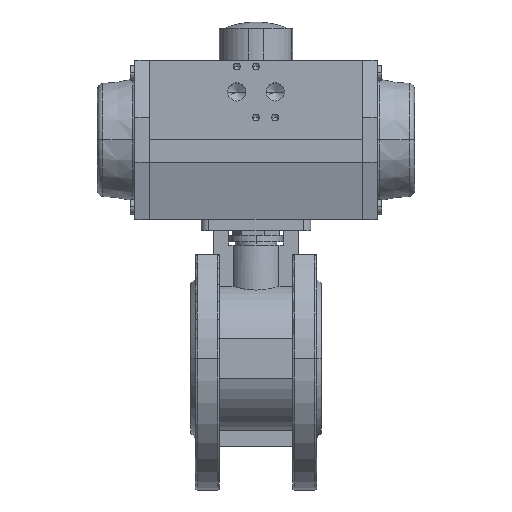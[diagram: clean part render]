
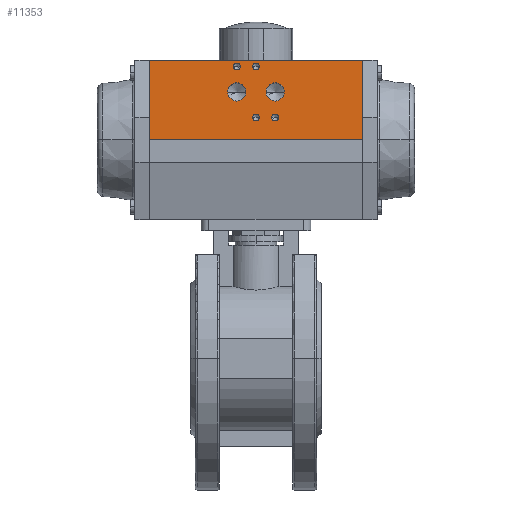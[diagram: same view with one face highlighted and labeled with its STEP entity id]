
A CAD part, top view. The second image highlights one B-rep face of the part: STEP entity #11353.
In plain terms, the highlighted planar face has unit normal (0, 0, 1) as drawn and (1, 0, 0) by its records, which use the part's own axes.
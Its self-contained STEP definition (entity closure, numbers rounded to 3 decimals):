
#951 = EDGE_LOOP ( 'NONE', ( #8239, #8247, #8246, #8233 ) ) ;
#953 = EDGE_LOOP ( 'NONE', ( #8217, #8227 ) ) ;
#955 = EDGE_LOOP ( 'NONE', ( #8221, #8243 ) ) ;
#957 = EDGE_LOOP ( 'NONE', ( #8210, #8219 ) ) ;
#959 = EDGE_LOOP ( 'NONE', ( #8234, #8244 ) ) ;
#966 = EDGE_LOOP ( 'NONE', ( #8241, #8238 ) ) ;
#968 = EDGE_LOOP ( 'NONE', ( #8204, #8216 ) ) ;
#1266 = VERTEX_POINT ( 'NONE', #1689 ) ;
#1267 = VERTEX_POINT ( 'NONE', #1690 ) ;
#1272 = VERTEX_POINT ( 'NONE', #1695 ) ;
#1273 = VERTEX_POINT ( 'NONE', #1696 ) ;
#1280 = VERTEX_POINT ( 'NONE', #1703 ) ;
#1281 = VERTEX_POINT ( 'NONE', #1704 ) ;
#1290 = VERTEX_POINT ( 'NONE', #1713 ) ;
#1291 = VERTEX_POINT ( 'NONE', #1714 ) ;
#1296 = VERTEX_POINT ( 'NONE', #1719 ) ;
#1297 = VERTEX_POINT ( 'NONE', #1720 ) ;
#1301 = VERTEX_POINT ( 'NONE', #1724 ) ;
#1304 = VERTEX_POINT ( 'NONE', #1727 ) ;
#1689 = CARTESIAN_POINT ( 'NONE',  ( 49.5, 30., 6.277 ) ) ;
#1690 = CARTESIAN_POINT ( 'NONE',  ( 49.5, 30., 17.722 ) ) ;
#1695 = CARTESIAN_POINT ( 'NONE',  ( 49.5, 30., -17.723 ) ) ;
#1696 = CARTESIAN_POINT ( 'NONE',  ( 49.5, 30., -6.277 ) ) ;
#1703 = CARTESIAN_POINT ( 'NONE',  ( 49.5, 46., -2.1 ) ) ;
#1704 = CARTESIAN_POINT ( 'NONE',  ( 49.5, 46., 2.1 ) ) ;
#1713 = CARTESIAN_POINT ( 'NONE',  ( 49.5, 14., -2.1 ) ) ;
#1714 = CARTESIAN_POINT ( 'NONE',  ( 49.5, 14., 2.1 ) ) ;
#1719 = CARTESIAN_POINT ( 'NONE',  ( 49.5, 14., -14.1 ) ) ;
#1720 = CARTESIAN_POINT ( 'NONE',  ( 49.5, 14., -9.9 ) ) ;
#1724 = CARTESIAN_POINT ( 'NONE',  ( 49.5, 46., 9.9 ) ) ;
#1727 = CARTESIAN_POINT ( 'NONE',  ( 49.5, 46., 14.1 ) ) ;
#2015 = LINE ( 'NONE', #2024, #10235 ) ;
#2024 = CARTESIAN_POINT ( 'NONE',  ( 49.5, 50., -67. ) ) ;
#2025 = DIRECTION ( 'NONE',  ( 0., 0., 1. ) ) ;
#2026 = CARTESIAN_POINT ( 'NONE',  ( 49.5, 46., 12. ) ) ;
#2027 = DIRECTION ( 'NONE',  ( 1., 0., 0. ) ) ;
#2028 = DIRECTION ( 'NONE',  ( 0., 0., -1. ) ) ;
#2035 = CARTESIAN_POINT ( 'NONE',  ( 49.5, 14., -12. ) ) ;
#2036 = DIRECTION ( 'NONE',  ( 1., 0., 0. ) ) ;
#2037 = DIRECTION ( 'NONE',  ( 0., 0., -1. ) ) ;
#2698 = CARTESIAN_POINT ( 'NONE',  ( 49.5, 30., 12. ) ) ;
#2699 = DIRECTION ( 'NONE',  ( 1., 0., 0. ) ) ;
#2700 = DIRECTION ( 'NONE',  ( 0., 0., -1. ) ) ;
#2727 = CARTESIAN_POINT ( 'NONE',  ( 49.5, 30., -12. ) ) ;
#2728 = DIRECTION ( 'NONE',  ( 1., 0., 0. ) ) ;
#2729 = DIRECTION ( 'NONE',  ( 0., 0., -1. ) ) ;
#2745 = CARTESIAN_POINT ( 'NONE',  ( 49.5, 46., 0. ) ) ;
#2746 = DIRECTION ( 'NONE',  ( 1., 0., 0. ) ) ;
#2747 = DIRECTION ( 'NONE',  ( 0., 0., -1. ) ) ;
#2763 = CARTESIAN_POINT ( 'NONE',  ( 49.5, 14., 0. ) ) ;
#2764 = DIRECTION ( 'NONE',  ( 1., 0., 0. ) ) ;
#2765 = DIRECTION ( 'NONE',  ( 0., 0., -1. ) ) ;
#2781 = CARTESIAN_POINT ( 'NONE',  ( 49.5, 14., -12. ) ) ;
#2782 = DIRECTION ( 'NONE',  ( 1., 0., 0. ) ) ;
#2783 = DIRECTION ( 'NONE',  ( 0., 0., -1. ) ) ;
#2799 = CARTESIAN_POINT ( 'NONE',  ( 49.5, 46., 12. ) ) ;
#2800 = DIRECTION ( 'NONE',  ( 1., 0., 0. ) ) ;
#2801 = DIRECTION ( 'NONE',  ( 0., 0., -1. ) ) ;
#4437 = CARTESIAN_POINT ( 'NONE',  ( 49.5, 50., -67. ) ) ;
#4441 = CARTESIAN_POINT ( 'NONE',  ( 49.5, 0., 67. ) ) ;
#4444 = CARTESIAN_POINT ( 'NONE',  ( 49.5, 50., 67. ) ) ;
#4450 = CARTESIAN_POINT ( 'NONE',  ( 49.5, 0., -67. ) ) ;
#5617 = LINE ( 'NONE', #5618, #12253 ) ;
#5618 = CARTESIAN_POINT ( 'NONE',  ( 49.5, 0., -67. ) ) ;
#5619 = DIRECTION ( 'NONE',  ( 0., 1., 0. ) ) ;
#5620 = LINE ( 'NONE', #5621, #12232 ) ;
#5621 = CARTESIAN_POINT ( 'NONE',  ( 49.5, 0., -67. ) ) ;
#5622 = DIRECTION ( 'NONE',  ( 0., 0., 1. ) ) ;
#5623 = LINE ( 'NONE', #5624, #12272 ) ;
#5624 = CARTESIAN_POINT ( 'NONE',  ( 49.5, 0., 67. ) ) ;
#5625 = DIRECTION ( 'NONE',  ( 0., 1., 0. ) ) ;
#5627 = CARTESIAN_POINT ( 'NONE',  ( 49.5, 30., 12. ) ) ;
#5628 = DIRECTION ( 'NONE',  ( 1., 0., 0. ) ) ;
#5629 = DIRECTION ( 'NONE',  ( 0., 0., -1. ) ) ;
#5632 = CARTESIAN_POINT ( 'NONE',  ( 49.5, 30., -12. ) ) ;
#5633 = DIRECTION ( 'NONE',  ( 1., 0., 0. ) ) ;
#5634 = DIRECTION ( 'NONE',  ( 0., 0., -1. ) ) ;
#5636 = CARTESIAN_POINT ( 'NONE',  ( 49.5, 46., 0. ) ) ;
#5637 = DIRECTION ( 'NONE',  ( 1., 0., 0. ) ) ;
#5638 = DIRECTION ( 'NONE',  ( 0., 0., -1. ) ) ;
#5641 = CARTESIAN_POINT ( 'NONE',  ( 49.5, 14., 0. ) ) ;
#5642 = DIRECTION ( 'NONE',  ( 1., 0., 0. ) ) ;
#5643 = DIRECTION ( 'NONE',  ( 0., 0., -1. ) ) ;
#6067 = FACE_BOUND ( 'NONE', #968, .T. ) ;
#6079 = FACE_BOUND ( 'NONE', #955, .T. ) ;
#6080 = FACE_BOUND ( 'NONE', #957, .T. ) ;
#6081 = FACE_BOUND ( 'NONE', #966, .T. ) ;
#6082 = FACE_OUTER_BOUND ( 'NONE', #951, .T. ) ;
#6083 = FACE_BOUND ( 'NONE', #953, .T. ) ;
#6084 = PLANE ( 'NONE',  #7243 ) ;
#6085 = FACE_BOUND ( 'NONE', #959, .T. ) ;
#6096 = CARTESIAN_POINT ( 'NONE',  ( 49.5, 0., -67. ) ) ;
#6097 = DIRECTION ( 'NONE',  ( 1., 0., 0. ) ) ;
#6098 = DIRECTION ( 'NONE',  ( 0., 1., 0. ) ) ;
#7243 = AXIS2_PLACEMENT_3D ( 'NONE', #6096, #6097, #6098 ) ;
#8204 = ORIENTED_EDGE ( 'NONE', *, *, #8850, .F. ) ;
#8210 = ORIENTED_EDGE ( 'NONE', *, *, #8848, .F. ) ;
#8216 = ORIENTED_EDGE ( 'NONE', *, *, #8685, .F. ) ;
#8217 = ORIENTED_EDGE ( 'NONE', *, *, #9082, .F. ) ;
#8219 = ORIENTED_EDGE ( 'NONE', *, *, #8691, .F. ) ;
#8221 = ORIENTED_EDGE ( 'NONE', *, *, #9079, .F. ) ;
#8227 = ORIENTED_EDGE ( 'NONE', *, *, #8679, .F. ) ;
#8233 = ORIENTED_EDGE ( 'NONE', *, *, #9075, .T. ) ;
#8234 = ORIENTED_EDGE ( 'NONE', *, *, #9081, .F. ) ;
#8238 = ORIENTED_EDGE ( 'NONE', *, *, #8657, .F. ) ;
#8239 = ORIENTED_EDGE ( 'NONE', *, *, #8847, .T. ) ;
#8241 = ORIENTED_EDGE ( 'NONE', *, *, #9078, .F. ) ;
#8243 = ORIENTED_EDGE ( 'NONE', *, *, #8667, .F. ) ;
#8244 = ORIENTED_EDGE ( 'NONE', *, *, #8673, .F. ) ;
#8246 = ORIENTED_EDGE ( 'NONE', *, *, #9076, .F. ) ;
#8247 = ORIENTED_EDGE ( 'NONE', *, *, #9077, .F. ) ;
#8657 = EDGE_CURVE ( 'NONE', #1267, #1266, #9984, .T. ) ;
#8667 = EDGE_CURVE ( 'NONE', #1273, #1272, #9999, .T. ) ;
#8673 = EDGE_CURVE ( 'NONE', #1281, #1280, #10006, .T. ) ;
#8679 = EDGE_CURVE ( 'NONE', #1291, #1290, #10011, .T. ) ;
#8685 = EDGE_CURVE ( 'NONE', #1297, #1296, #10022, .T. ) ;
#8691 = EDGE_CURVE ( 'NONE', #1304, #1301, #10027, .T. ) ;
#8847 = EDGE_CURVE ( 'NONE', #11907, #11906, #2015, .T. ) ;
#8848 = EDGE_CURVE ( 'NONE', #1301, #1304, #10237, .T. ) ;
#8850 = EDGE_CURVE ( 'NONE', #1296, #1297, #10241, .T. ) ;
#9075 = EDGE_CURVE ( 'NONE', #11913, #11907, #5617, .T. ) ;
#9076 = EDGE_CURVE ( 'NONE', #11913, #11903, #5620, .T. ) ;
#9077 = EDGE_CURVE ( 'NONE', #11903, #11906, #5623, .T. ) ;
#9078 = EDGE_CURVE ( 'NONE', #1266, #1267, #12283, .T. ) ;
#9079 = EDGE_CURVE ( 'NONE', #1272, #1273, #12179, .T. ) ;
#9081 = EDGE_CURVE ( 'NONE', #1280, #1281, #12221, .T. ) ;
#9082 = EDGE_CURVE ( 'NONE', #1290, #1291, #12181, .T. ) ;
#9984 = CIRCLE ( 'NONE', #9989, 5.722 ) ;
#9989 = AXIS2_PLACEMENT_3D ( 'NONE', #2698, #2699, #2700 ) ;
#9999 = CIRCLE ( 'NONE', #10002, 5.723 ) ;
#10002 = AXIS2_PLACEMENT_3D ( 'NONE', #2727, #2728, #2729 ) ;
#10006 = CIRCLE ( 'NONE', #10010, 2.1 ) ;
#10010 = AXIS2_PLACEMENT_3D ( 'NONE', #2745, #2746, #2747 ) ;
#10011 = CIRCLE ( 'NONE', #10018, 2.1 ) ;
#10018 = AXIS2_PLACEMENT_3D ( 'NONE', #2763, #2764, #2765 ) ;
#10022 = CIRCLE ( 'NONE', #10026, 2.1 ) ;
#10026 = AXIS2_PLACEMENT_3D ( 'NONE', #2781, #2782, #2783 ) ;
#10027 = CIRCLE ( 'NONE', #10034, 2.1 ) ;
#10034 = AXIS2_PLACEMENT_3D ( 'NONE', #2799, #2800, #2801 ) ;
#10235 = VECTOR ( 'NONE', #2025, 1000. ) ;
#10237 = CIRCLE ( 'NONE', #10240, 2.1 ) ;
#10240 = AXIS2_PLACEMENT_3D ( 'NONE', #2026, #2027, #2028 ) ;
#10241 = CIRCLE ( 'NONE', #10244, 2.1 ) ;
#10244 = AXIS2_PLACEMENT_3D ( 'NONE', #2035, #2036, #2037 ) ;
#11353 = ADVANCED_FACE ( 'NONE', ( #6080, #6067, #6083, #6085, #6079, #6081, #6082 ), #6084, .T. ) ;
#11903 = VERTEX_POINT ( 'NONE', #4441 ) ;
#11906 = VERTEX_POINT ( 'NONE', #4444 ) ;
#11907 = VERTEX_POINT ( 'NONE', #4437 ) ;
#11913 = VERTEX_POINT ( 'NONE', #4450 ) ;
#12170 = AXIS2_PLACEMENT_3D ( 'NONE', #5627, #5628, #5629 ) ;
#12171 = AXIS2_PLACEMENT_3D ( 'NONE', #5641, #5642, #5643 ) ;
#12174 = AXIS2_PLACEMENT_3D ( 'NONE', #5632, #5633, #5634 ) ;
#12176 = AXIS2_PLACEMENT_3D ( 'NONE', #5636, #5637, #5638 ) ;
#12179 = CIRCLE ( 'NONE', #12174, 5.723 ) ;
#12181 = CIRCLE ( 'NONE', #12171, 2.1 ) ;
#12221 = CIRCLE ( 'NONE', #12176, 2.1 ) ;
#12232 = VECTOR ( 'NONE', #5622, 1000. ) ;
#12253 = VECTOR ( 'NONE', #5619, 1000. ) ;
#12272 = VECTOR ( 'NONE', #5625, 1000. ) ;
#12283 = CIRCLE ( 'NONE', #12170, 5.722 ) ;
